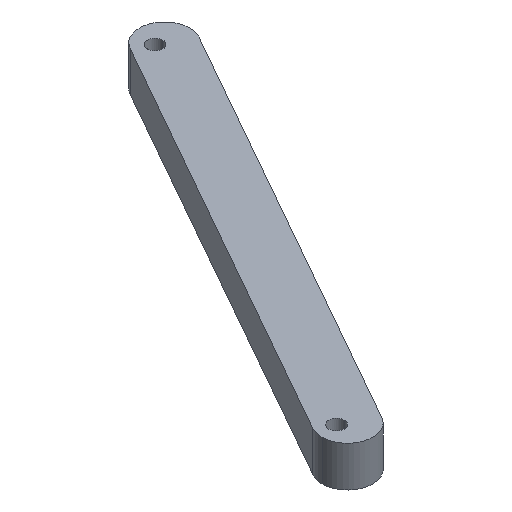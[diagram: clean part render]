
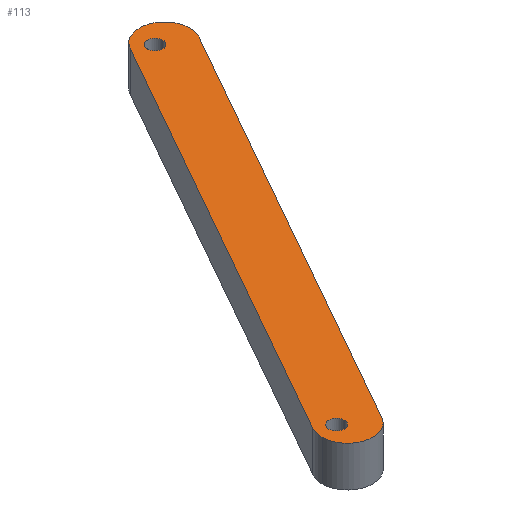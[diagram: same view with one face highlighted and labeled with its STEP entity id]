
A CAD part, isometric view. The second image highlights one B-rep face of the part: STEP entity #113.
In plain terms, the highlighted planar face has unit normal (0, 0, 1).
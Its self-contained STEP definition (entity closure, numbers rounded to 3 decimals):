
#6 = DIRECTION ( 'NONE',  ( 0., 0., 1. ) ) ;
#19 = FACE_OUTER_BOUND ( 'NONE', #43, .T. ) ;
#28 = DIRECTION ( 'NONE',  ( 1., 0., 0. ) ) ;
#36 = DIRECTION ( 'NONE',  ( 1., 0., 0. ) ) ;
#37 = AXIS2_PLACEMENT_3D ( 'NONE', #389, #300, #104 ) ;
#38 = CARTESIAN_POINT ( 'NONE',  ( -61.729, -30.721, 8. ) ) ;
#43 = EDGE_LOOP ( 'NONE', ( #53, #176, #148, #348, #218 ) ) ;
#53 = ORIENTED_EDGE ( 'NONE', *, *, #163, .T. ) ;
#57 = LINE ( 'NONE', #232, #124 ) ;
#58 = FACE_BOUND ( 'NONE', #77, .T. ) ;
#62 = DIRECTION ( 'NONE',  ( 0., 0., 1. ) ) ;
#63 = VERTEX_POINT ( 'NONE', #198 ) ;
#66 = CARTESIAN_POINT ( 'NONE',  ( -64.649, -29.998, 8. ) ) ;
#77 = EDGE_LOOP ( 'NONE', ( #319, #314 ) ) ;
#87 = CIRCLE ( 'NONE', #259, 1.528 ) ;
#95 = AXIS2_PLACEMENT_3D ( 'NONE', #357, #62, #36 ) ;
#97 = CARTESIAN_POINT ( 'NONE',  ( -61.729, -30.721, 8. ) ) ;
#104 = DIRECTION ( 'NONE',  ( 1., 0., 0. ) ) ;
#109 = CARTESIAN_POINT ( 'NONE',  ( -63.121, -29.998, 8. ) ) ;
#113 = ADVANCED_FACE ( 'NONE', ( #264, #19, #58 ), #157, .T. ) ;
#114 = VERTEX_POINT ( 'NONE', #296 ) ;
#118 = EDGE_CURVE ( 'NONE', #210, #193, #87, .T. ) ;
#124 = VECTOR ( 'NONE', #161, 1000. ) ;
#129 = DIRECTION ( 'NONE',  ( 0., 0., 1. ) ) ;
#131 = CARTESIAN_POINT ( 'NONE',  ( -15.967, 53.041, 8. ) ) ;
#137 = CIRCLE ( 'NONE', #224, 1.528 ) ;
#142 = CARTESIAN_POINT ( 'NONE',  ( -14.711, 52.435, 8. ) ) ;
#148 = ORIENTED_EDGE ( 'NONE', *, *, #410, .T. ) ;
#157 = PLANE ( 'NONE',  #406 ) ;
#161 = DIRECTION ( 'NONE',  ( 0.492, 0.87, 0. ) ) ;
#163 = EDGE_CURVE ( 'NONE', #258, #280, #308, .T. ) ;
#172 = DIRECTION ( 'NONE',  ( 1., 0., 0. ) ) ;
#174 = CARTESIAN_POINT ( 'NONE',  ( -66.729, -30.721, 8. ) ) ;
#176 = ORIENTED_EDGE ( 'NONE', *, *, #191, .T. ) ;
#177 = AXIS2_PLACEMENT_3D ( 'NONE', #131, #306, #384 ) ;
#191 = EDGE_CURVE ( 'NONE', #280, #222, #231, .T. ) ;
#193 = VERTEX_POINT ( 'NONE', #395 ) ;
#198 = CARTESIAN_POINT ( 'NONE',  ( -17.475, 53.041, 8. ) ) ;
#202 = EDGE_CURVE ( 'NONE', #238, #63, #213, .T. ) ;
#205 = AXIS2_PLACEMENT_3D ( 'NONE', #38, #206, #277 ) ;
#206 = DIRECTION ( 'NONE',  ( 0., 0., 1. ) ) ;
#210 = VERTEX_POINT ( 'NONE', #66 ) ;
#213 = CIRCLE ( 'NONE', #95, 1.507 ) ;
#218 = ORIENTED_EDGE ( 'NONE', *, *, #322, .T. ) ;
#222 = VERTEX_POINT ( 'NONE', #305 ) ;
#224 = AXIS2_PLACEMENT_3D ( 'NONE', #109, #6, #28 ) ;
#231 = CIRCLE ( 'NONE', #37, 5. ) ;
#232 = CARTESIAN_POINT ( 'NONE',  ( -57.377, -33.182, 8. ) ) ;
#233 = ORIENTED_EDGE ( 'NONE', *, *, #118, .F. ) ;
#238 = VERTEX_POINT ( 'NONE', #390 ) ;
#253 = EDGE_LOOP ( 'NONE', ( #233, #366 ) ) ;
#257 = EDGE_CURVE ( 'NONE', #114, #418, #298, .T. ) ;
#258 = VERTEX_POINT ( 'NONE', #362 ) ;
#259 = AXIS2_PLACEMENT_3D ( 'NONE', #374, #129, #385 ) ;
#260 = DIRECTION ( 'NONE',  ( 1., 0., 0. ) ) ;
#264 = FACE_BOUND ( 'NONE', #253, .T. ) ;
#266 = VECTOR ( 'NONE', #420, 1000. ) ;
#277 = DIRECTION ( 'NONE',  ( 1., 0., 0. ) ) ;
#280 = VERTEX_POINT ( 'NONE', #174 ) ;
#291 = AXIS2_PLACEMENT_3D ( 'NONE', #142, #335, #172 ) ;
#296 = CARTESIAN_POINT ( 'NONE',  ( -10.359, 49.974, 8. ) ) ;
#298 = CIRCLE ( 'NONE', #291, 5. ) ;
#300 = DIRECTION ( 'NONE',  ( 0., 0., 1. ) ) ;
#305 = CARTESIAN_POINT ( 'NONE',  ( -57.377, -33.182, 8. ) ) ;
#306 = DIRECTION ( 'NONE',  ( 0., 0., 1. ) ) ;
#308 = CIRCLE ( 'NONE', #205, 5. ) ;
#314 = ORIENTED_EDGE ( 'NONE', *, *, #202, .F. ) ;
#319 = ORIENTED_EDGE ( 'NONE', *, *, #416, .F. ) ;
#322 = EDGE_CURVE ( 'NONE', #418, #258, #330, .T. ) ;
#330 = LINE ( 'NONE', #336, #266 ) ;
#335 = DIRECTION ( 'NONE',  ( 0., 0., 1. ) ) ;
#336 = CARTESIAN_POINT ( 'NONE',  ( -66.082, -28.261, 8. ) ) ;
#348 = ORIENTED_EDGE ( 'NONE', *, *, #257, .T. ) ;
#354 = DIRECTION ( 'NONE',  ( 0., 0., 1. ) ) ;
#357 = CARTESIAN_POINT ( 'NONE',  ( -15.967, 53.041, 8. ) ) ;
#362 = CARTESIAN_POINT ( 'NONE',  ( -66.082, -28.261, 8. ) ) ;
#366 = ORIENTED_EDGE ( 'NONE', *, *, #419, .F. ) ;
#374 = CARTESIAN_POINT ( 'NONE',  ( -63.121, -29.998, 8. ) ) ;
#379 = CARTESIAN_POINT ( 'NONE',  ( -19.063, 54.896, 8. ) ) ;
#384 = DIRECTION ( 'NONE',  ( 1., 0., 0. ) ) ;
#385 = DIRECTION ( 'NONE',  ( 1., 0., 0. ) ) ;
#389 = CARTESIAN_POINT ( 'NONE',  ( -61.729, -30.721, 8. ) ) ;
#390 = CARTESIAN_POINT ( 'NONE',  ( -14.46, 53.041, 8. ) ) ;
#395 = CARTESIAN_POINT ( 'NONE',  ( -61.593, -29.998, 8. ) ) ;
#396 = CIRCLE ( 'NONE', #177, 1.507 ) ;
#406 = AXIS2_PLACEMENT_3D ( 'NONE', #97, #354, #260 ) ;
#410 = EDGE_CURVE ( 'NONE', #222, #114, #57, .T. ) ;
#416 = EDGE_CURVE ( 'NONE', #63, #238, #396, .T. ) ;
#418 = VERTEX_POINT ( 'NONE', #379 ) ;
#419 = EDGE_CURVE ( 'NONE', #193, #210, #137, .T. ) ;
#420 = DIRECTION ( 'NONE',  ( -0.492, -0.87, 0. ) ) ;
